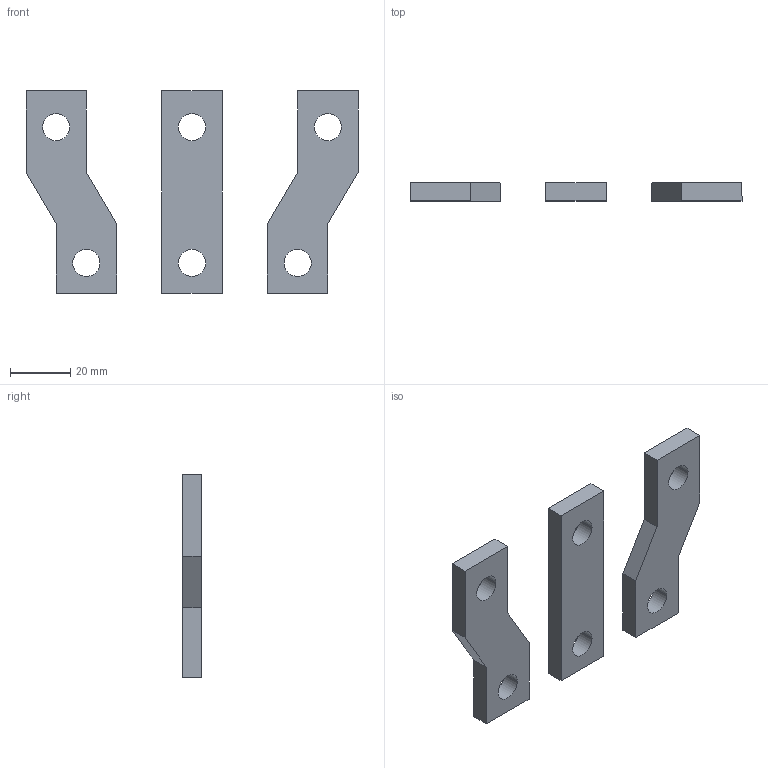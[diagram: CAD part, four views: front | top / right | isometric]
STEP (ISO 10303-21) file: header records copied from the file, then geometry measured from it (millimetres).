
FILE_DESCRIPTION (( 'STEP AP214' ), '1' );
FILE_NAME ('TGM1N-GP-250-3P.STEP', '2025-12-29T11:40:20', ( '' ), ( '' ), 'SwSTEP 2.0', 'SolidWorks 2024', '' );
FILE_SCHEMA (( 'AUTOMOTIVE_DESIGN' ));
Length unit declared in the file: millimetre
Products named in the file (6): TGM1NE-GP-250-3P(straight); TGM1NE-GP-250-3P.stp; TGM1N-GP-250-3P; TGM1NE-GP-250-3P2; 250WANPAI1_1.stp
Assembly tree (6 placements, depth 4):
  TGM1N-GP-250-3P
    TGM1NE-GP-250-3P.stp
      250WANPAI1_1.stp
    TGM1NE-GP-250-3P(straight)
      TGM1NE-GP-250-3P(straight)
    TGM1NE-GP-250-3P2
      TGM1NE-GP-250-3P.stp
        250WANPAI1_1.stp
Bounding box: 110 x 6 x 67 mm (x, y, z)
Volume: 21829.8 mm3; surface area: 11491.8 mm2
Topology: 3 solids, 3 shells, 38 faces, 96 edges, 64 vertices
Faces by surface type: plane 26, cylinder 12
Entity records: 910 total; most frequent: DIRECTION 148, CARTESIAN_POINT 136, ORIENTED_EDGE 120, EDGE_CURVE 60, AXIS2_PLACEMENT_3D 52, VECTOR 44, LINE 44, VERTEX_POINT 40
